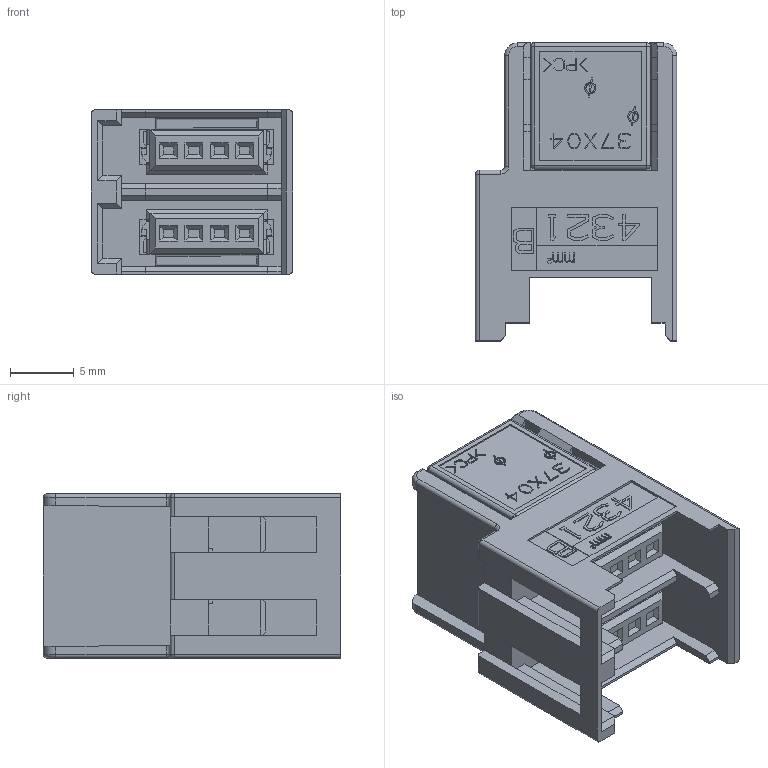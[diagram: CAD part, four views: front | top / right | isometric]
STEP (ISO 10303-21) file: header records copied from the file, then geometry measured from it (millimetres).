
FILE_DESCRIPTION(/* description */ (''),/* implementation_level */ '2;1');
FILE_NAME(/* name */ '37308-XXXX-XXXX-XX step.stp',/* time_stamp */ '2008-06-16T10:18:42-05:00',/* author */ (''),/* organization */ (''),/* preprocessor_version */ 'ST-DEVELOPER v11',/* originating_system */ 'UGS - NX 5.0',/* authorisation */ '');
FILE_SCHEMA (('CONFIG_CONTROL_DESIGN'));
Length unit declared in the file: millimetre
Products named in the file (1): 37308-XXXX-XXXX-XX_3Dnon-parm
Bounding box: 15.8 x 23.4 x 12.9 mm (x, y, z)
Volume: 2544.2 mm3; surface area: 3768.5 mm2
Topology: 3 solids, 3 shells, 1487 faces, 3985 edges, 2616 vertices
Faces by surface type: plane 1392, cylinder 65, sphere 10, cone 8, torus 6, extrusion 6
Entity records: 45711 total; most frequent: CARTESIAN_POINT 8419, ORIENTED_EDGE 7934, DIRECTION 7055, EDGE_CURVE 3967, VECTOR 3787, LINE 3781, VERTEX_POINT 2616, AXIS2_PLACEMENT_3D 1634
